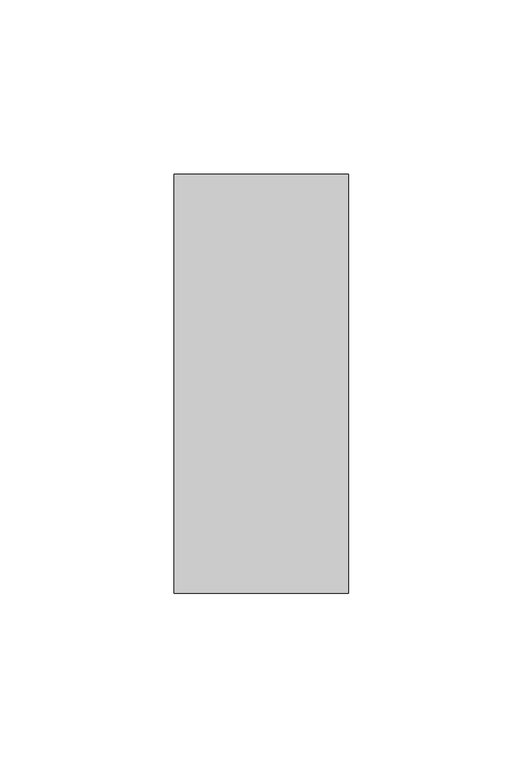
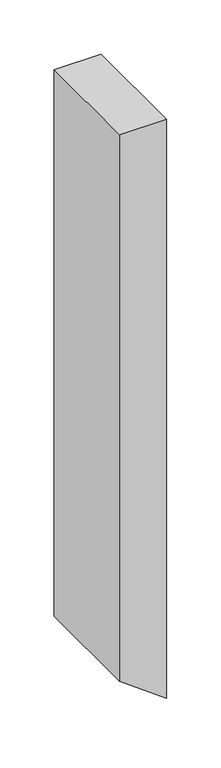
"""IFC4 building model written with IfcOpenShell, lengths in millimetres: member geometry, Прямоугольный импост : 50х120 мм."""

from ifc_helpers import new_model, si_unit, frame, origin, place, context, project, spatial, polyline, outline, extrude, source, transform, mapped, element, save


def member_f3a47fe4(model_context):
    return source(origin(), model_context, "Body", "SweptSolid", [
        extrude(outline(polyline([(0.0, 0.0), (0.0, -50.0), (-613.6345635, -50.0), (-649.9616899, 0.0), (0.0, 0.0)])), frame((0.0, -60.0, 0.0), z_axis=(0.0, 1.0, 0.0), x_axis=(0.0, 0.0, 1.0)), (0.0, 0.0, 1.0), 120.0),
    ])


if __name__ == "__main__":
    model = new_model("IFC4")
    model_context = context("Model", 3, world=origin())
    ifc_project = project(units=[si_unit("LENGTHUNIT", "METRE", prefix="MILLI")], contexts=[model_context])
    site = spatial("IfcSite", under=ifc_project)
    building = spatial("IfcBuilding", under=site)
    placement = place(None, origin())
    member_shape = member_f3a47fe4(model_context)
    element("IfcMember", 1, ObjectType="Прямоугольный импост : 50х120 мм", at=placement, inside=building, context=model_context, shape_type="MappedRepresentation", body=[
        mapped(member_shape, transform((0.0, 0.0, 0.0), x_axis=(1.0, 0.0, 0.0), y_axis=(0.0, 1.0, 0.0), z_axis=(0.0, 0.0, 1.0))),
    ])
    save(model, "model.ifc")
